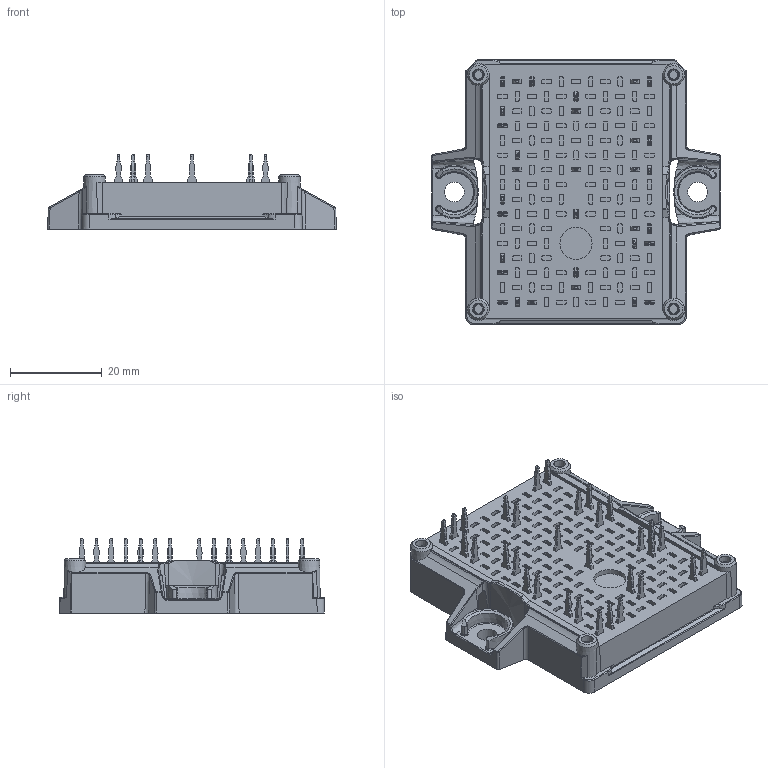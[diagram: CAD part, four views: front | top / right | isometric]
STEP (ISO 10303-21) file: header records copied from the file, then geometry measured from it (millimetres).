
FILE_DESCRIPTION(/* description */ ('Unknown'),/* implementation_level */ '2;1');
FILE_NAME(/* name */ 'FlowE2-4T12T-MA90(320)-01-OL',/* time_stamp */ '2026-09-17T11:20:14+02:00',/* author */ ('Unknown'),/* organization */ ('Unknown'),/* preprocessor_version */ 'ST-DEVELOPER v20',/* originating_system */ 'Solid Edge',/* authorisation */ 'Unknown');
FILE_SCHEMA (('CONFIG_CONTROL_DESIGN','FEATURE_BASED_PROCESS_PLANNING','AUTOMOTIVE_DESIGN {1 0 10303 214 3 1 1}'));
Products named in the file (1): FlowE2-4T12T-MA90-OL
Bounding box: 62.8 x 57.68 x 16.43 mm (x, y, z)
Volume: 26305.6 mm3; surface area: 12596.9 mm2
Topology: 1 solids, 1 shells, 4189 faces, 10404 edges, 6417 vertices
Faces by surface type: plane 2147, cylinder 1163, cone 714, bspline 119, torus 28, sphere 18
Full cylindrical faces by diameter (mm): 4.3 x2, 7 x1
Entity records: 153747 total; most frequent: CARTESIAN_POINT 23876, DIRECTION 21434, ORIENTED_EDGE 20704, EDGE_CURVE 10352, AXIS2_PLACEMENT_3D 7297, LINE 6840, VECTOR 6840, VERTEX_POINT 6404
